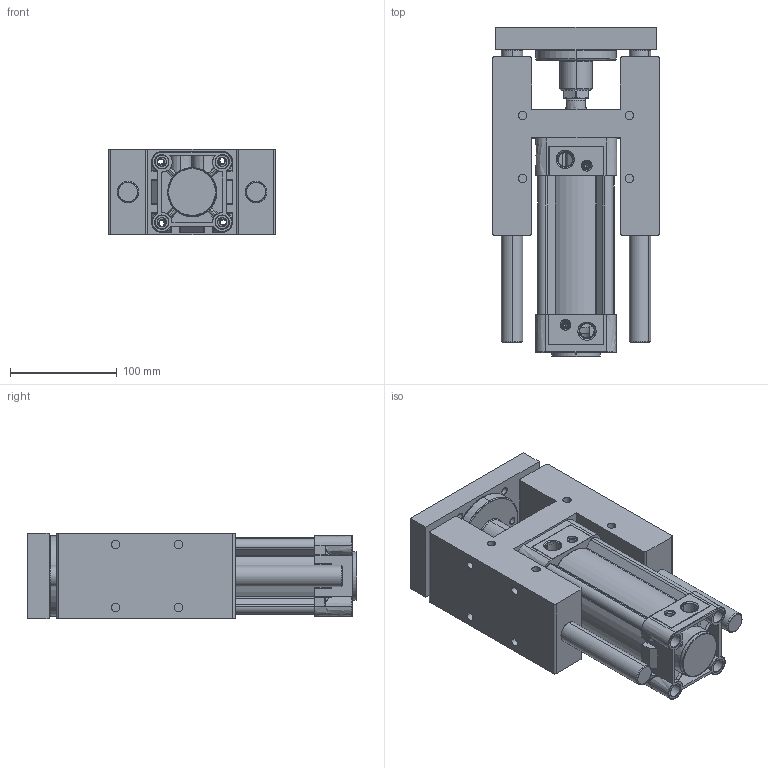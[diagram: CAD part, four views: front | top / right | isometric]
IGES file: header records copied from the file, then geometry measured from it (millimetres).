
Start section: SolidWorks IGES file using analytic representation for surfaces
Global section: file name: D:\ARICA 3D 禽Z軲LER\3D IGES\DNC-H\MDNC\63\MDNC63X80H-YATAK.IGS,1; native system: 5HSolidWorks 2013; preprocessor: SolidWorks 2013; author: user; date: 160520.085204; units: millimetre
Bounding box: 157 x 308.7 x 80.5 mm (x, y, z)
Surface area: 450418.9 mm2 (no closed solid volume)
Topology: 0 solids, 0 shells, 997 faces, 18714 edges, 18704 vertices
Faces by surface type: revolution 598, bspline 399
